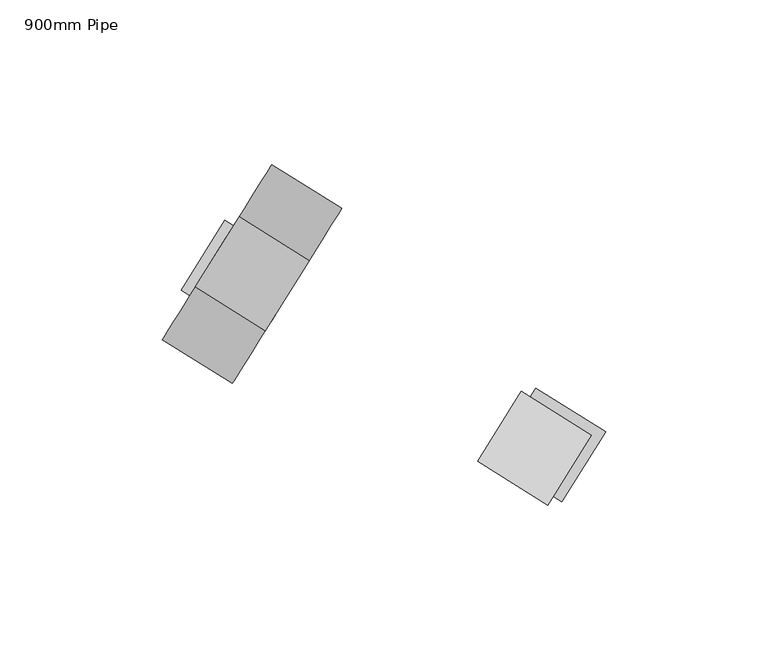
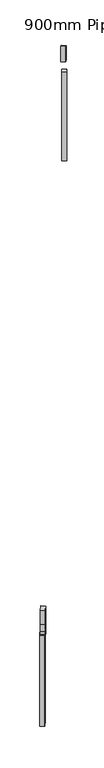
"""IFC4 building model written with IfcOpenShell, lengths in millimetres: railing geometry, 900mm Pipe."""

from ifc_helpers import new_model, si_unit, point, frame, frame_2d, origin, place, context, project, spatial, polyline, circle_curve, trimmed, segment, composite_curve, outline, extrude, source, transform, mapped, element, save


def railing_900mm_pipe_ab40f20e(model_context):
    return source(origin(), model_context, "Body", "SweptSolid", [
        extrude(outline(polyline([(0.0, -25.4), (0.0, 0.0), (542.8375, 0.0), (555.5375, -25.4), (0.0, -25.4)])), frame((45963.8417257, -53362.366106, 8441.35), z_axis=(-0.8480480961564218, 0.5299192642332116, 0.0), x_axis=(0.0, 0.0, -1.0)), (0.0, 0.0, 1.0), 25.4),
        extrude(outline(polyline([(317.5, 0.0), (317.5, -25.4), (234.95, -25.4), (222.25, 0.0), (317.5, 0.0)])), frame((45959.4666793, -53363.3761651, 8822.35), z_axis=(-0.8480480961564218, 0.5299192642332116, 0.0), x_axis=(0.0, 0.0, -1.0)), (0.0, 0.0, 1.0), 25.4),
        extrude(outline(composite_curve([segment(trimmed(circle_curve(frame_2d((0.0, -31.75)), 31.75), [point((0.0, -63.5))], [point((0.0, 0.0))], False, "CARTESIAN"), True, "CONTINUOUS"), segment(trimmed(circle_curve(frame_2d((0.0, -31.75)), 31.75), [point((0.0, 0.0))], [point((0.0, -63.5))], False, "CARTESIAN"), True, "CONTINUOUS")], self_intersect=False), holes=[composite_curve([segment(trimmed(circle_curve(frame_2d((0.0, -31.75)), 12.7), [point((0.0, -44.45))], [point((0.0, -19.05))], True, "CARTESIAN"), True, "CONTINUOUS"), segment(trimmed(circle_curve(frame_2d((0.0, -31.75)), 12.7), [point((0.0, -19.05))], [point((0.0, -44.45))], True, "CARTESIAN"), True, "CONTINUOUS")], self_intersect=False)]), frame((45862.5155666, -53325.2577347, 5035.6), z_axis=(-0.8480480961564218, 0.5299192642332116, 0.0), x_axis=(0.0, 0.0, -1.0)), (0.0, 0.0, 1.0), 25.4),
        extrude(outline(polyline([(0.0, -25.4), (0.0, 0.0), (555.5375, 0.0), (542.8375, -25.4), (0.0, -25.4)])), frame((45868.2354822, -53310.1124775, 5003.85), z_axis=(-0.8480480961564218, 0.5299192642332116, 0.0), x_axis=(0.0, 0.0, -1.0)), (0.0, 0.0, 1.0), 25.4),
        extrude(outline(polyline([(317.5, 0.0), (317.5, -25.4), (222.25, -25.4), (234.95, 0.0), (317.5, 0.0)])), frame((45872.6105286, -53309.1024185, 5384.85), z_axis=(-0.8480480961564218, 0.5299192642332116, 0.0), x_axis=(0.0, 0.0, -1.0)), (0.0, 0.0, 1.0), 25.4),
    ])


if __name__ == "__main__":
    model = new_model("IFC4")
    model_context = context("Model", 3, world=origin())
    ifc_project = project(units=[si_unit("LENGTHUNIT", "METRE", prefix="MILLI")], contexts=[model_context])
    site = spatial("IfcSite", under=ifc_project)
    building = spatial("IfcBuilding", under=site)
    placement = place(None, origin())
    railing_900mm_pipe_shape = railing_900mm_pipe_ab40f20e(model_context)
    element("IfcRailing", 1, ObjectType="900mm Pipe", at=placement, inside=building, context=model_context, shape_type="MappedRepresentation", body=[
        mapped(railing_900mm_pipe_shape, transform((0.0, 0.0, 0.0), x_axis=(1.0, 0.0, 0.0), y_axis=(0.0, 1.0, 0.0), z_axis=(0.0, 0.0, 1.0))),
    ])
    save(model, "model.ifc")
